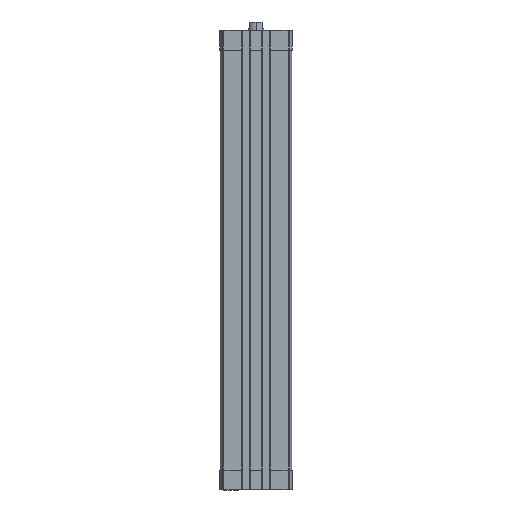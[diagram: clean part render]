
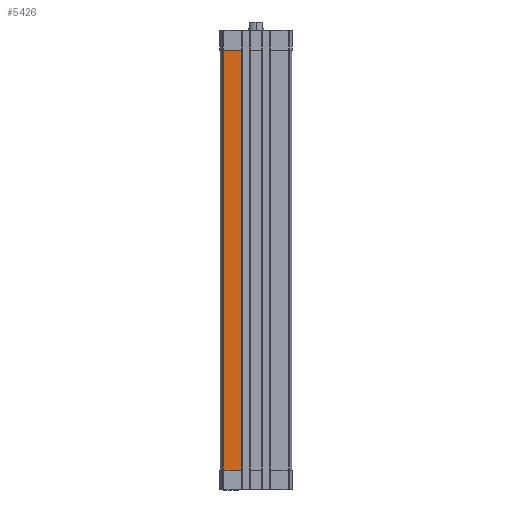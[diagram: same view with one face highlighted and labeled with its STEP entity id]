
A CAD part, left-side view. The second image highlights one B-rep face of the part: STEP entity #5426.
In plain terms, the highlighted planar face has unit normal (-1, 0, 0).
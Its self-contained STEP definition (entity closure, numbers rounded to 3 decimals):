
#10 = DIRECTION ( 'NONE',  ( 0., 1., 0. ) ) ;
#499 = EDGE_LOOP ( 'NONE', ( #11151, #6850, #12278, #3208 ) ) ;
#998 = DIRECTION ( 'NONE',  ( 0., 0., 1. ) ) ;
#1107 = CARTESIAN_POINT ( 'NONE',  ( -27., 24.093, -15. ) ) ;
#2831 = LINE ( 'NONE', #3620, #8916 ) ;
#2950 = DIRECTION ( 'NONE',  ( 0., 0., 1. ) ) ;
#3208 = ORIENTED_EDGE ( 'NONE', *, *, #11561, .T. ) ;
#3620 = CARTESIAN_POINT ( 'NONE',  ( -27., 24.093, -330. ) ) ;
#3654 = LINE ( 'NONE', #5393, #9718 ) ;
#4138 = CARTESIAN_POINT ( 'NONE',  ( -27., 24.093, -330. ) ) ;
#4481 = EDGE_CURVE ( 'NONE', #11128, #13420, #11246, .T. ) ;
#4634 = CARTESIAN_POINT ( 'NONE',  ( -27., 10.7, -330. ) ) ;
#5201 = VECTOR ( 'NONE', #10, 1000. ) ;
#5316 = LINE ( 'NONE', #4634, #11363 ) ;
#5393 = CARTESIAN_POINT ( 'NONE',  ( -27., 24.093, -330. ) ) ;
#5426 = ADVANCED_FACE ( 'NONE', ( #7663 ), #9008, .T. ) ;
#6008 = CARTESIAN_POINT ( 'NONE',  ( -27., 0., -15. ) ) ;
#6850 = ORIENTED_EDGE ( 'NONE', *, *, #7220, .T. ) ;
#7220 = EDGE_CURVE ( 'NONE', #9848, #11128, #5316, .T. ) ;
#7650 = EDGE_CURVE ( 'NONE', #9636, #9848, #2831, .T. ) ;
#7663 = FACE_OUTER_BOUND ( 'NONE', #499, .T. ) ;
#8916 = VECTOR ( 'NONE', #13265, 1000. ) ;
#9008 = PLANE ( 'NONE',  #14311 ) ;
#9636 = VERTEX_POINT ( 'NONE', #10890 ) ;
#9718 = VECTOR ( 'NONE', #11405, 1000. ) ;
#9848 = VERTEX_POINT ( 'NONE', #10142 ) ;
#10142 = CARTESIAN_POINT ( 'NONE',  ( -27., 10.7, -330. ) ) ;
#10208 = DIRECTION ( 'NONE',  ( -1., 0., 0. ) ) ;
#10890 = CARTESIAN_POINT ( 'NONE',  ( -27., 24.093, -330. ) ) ;
#11128 = VERTEX_POINT ( 'NONE', #13834 ) ;
#11151 = ORIENTED_EDGE ( 'NONE', *, *, #7650, .T. ) ;
#11246 = LINE ( 'NONE', #6008, #5201 ) ;
#11363 = VECTOR ( 'NONE', #998, 1000. ) ;
#11405 = DIRECTION ( 'NONE',  ( 0., 0., -1. ) ) ;
#11561 = EDGE_CURVE ( 'NONE', #13420, #9636, #3654, .T. ) ;
#12278 = ORIENTED_EDGE ( 'NONE', *, *, #4481, .T. ) ;
#13265 = DIRECTION ( 'NONE',  ( 0., -1., 0. ) ) ;
#13420 = VERTEX_POINT ( 'NONE', #1107 ) ;
#13834 = CARTESIAN_POINT ( 'NONE',  ( -27., 10.7, -15. ) ) ;
#14311 = AXIS2_PLACEMENT_3D ( 'NONE', #4138, #10208, #2950 ) ;
